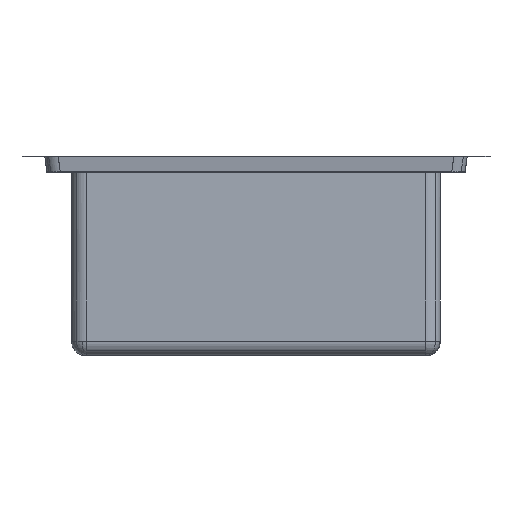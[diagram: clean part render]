
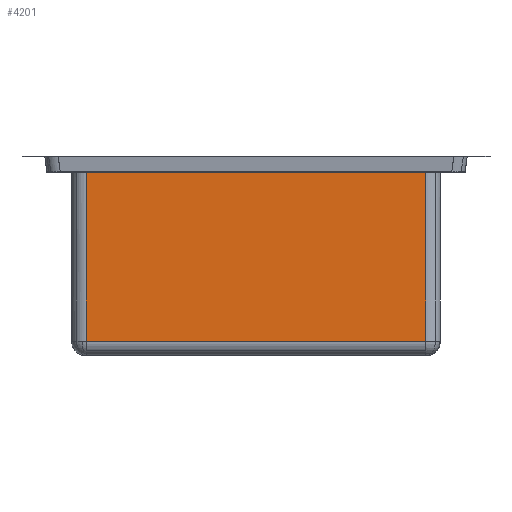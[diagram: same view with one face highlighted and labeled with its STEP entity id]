
A CAD part, left-side view. The second image highlights one B-rep face of the part: STEP entity #4201.
In plain terms, the highlighted planar face has unit normal (-1, 0, 0).
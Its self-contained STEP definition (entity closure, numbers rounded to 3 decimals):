
#3736=CARTESIAN_POINT('Line Origine',(778.326,0.,32.3)) ;
#3740=CARTESIAN_POINT('Vertex',(778.326,-185.,32.3)) ;
#3742=CARTESIAN_POINT('Vertex',(778.326,185.,32.3)) ;
#4109=CARTESIAN_POINT('Vertex',(778.326,-185.,-151.7)) ;
#4117=CARTESIAN_POINT('Line Origine',(778.326,-185.,-67.7)) ;
#4178=CARTESIAN_POINT('Axis2P3D Location',(778.326,185.,32.3)) ;
#4183=CARTESIAN_POINT('Line Origine',(778.326,0.,-151.7)) ;
#4187=CARTESIAN_POINT('Vertex',(778.326,185.,-151.7)) ;
#4190=CARTESIAN_POINT('Line Origine',(778.326,185.,-59.7)) ;
#3737=DIRECTION('Vector Direction',(0.,-1.,0.)) ;
#4118=DIRECTION('Vector Direction',(0.,0.,-1.)) ;
#4179=DIRECTION('Axis2P3D Direction',(1.,0.,0.)) ;
#4180=DIRECTION('Axis2P3D XDirection',(0.,-1.,0.)) ;
#4184=DIRECTION('Vector Direction',(0.,-1.,0.)) ;
#4191=DIRECTION('Vector Direction',(0.,0.,-1.)) ;
#4181=AXIS2_PLACEMENT_3D('Plane Axis2P3D',#4178,#4179,#4180) ;
#4196=ORIENTED_EDGE('',*,*,#4189,.F.) ;
#4197=ORIENTED_EDGE('',*,*,#4121,.F.) ;
#4198=ORIENTED_EDGE('',*,*,#3744,.T.) ;
#4199=ORIENTED_EDGE('',*,*,#4194,.T.) ;
#3738=VECTOR('Line Direction',#3737,1.) ;
#4119=VECTOR('Line Direction',#4118,1.) ;
#4185=VECTOR('Line Direction',#4184,1.) ;
#4192=VECTOR('Line Direction',#4191,1.) ;
#4201=ADVANCED_FACE('Vasca-CTP.2',(#4200),#4182,.F.) ;
#3744=EDGE_CURVE('',#3741,#3743,#3739,.F.) ;
#4121=EDGE_CURVE('',#3741,#4110,#4120,.T.) ;
#4189=EDGE_CURVE('',#4110,#4188,#4186,.F.) ;
#4194=EDGE_CURVE('',#3743,#4188,#4193,.T.) ;
#4195=EDGE_LOOP('',(#4196,#4197,#4198,#4199)) ;
#4200=FACE_OUTER_BOUND('',#4195,.T.) ;
#3739=LINE('Line',#3736,#3738) ;
#4120=LINE('Line',#4117,#4119) ;
#4186=LINE('Line',#4183,#4185) ;
#4193=LINE('Line',#4190,#4192) ;
#4182=PLANE('',#4181) ;
#3741=VERTEX_POINT('',#3740) ;
#3743=VERTEX_POINT('',#3742) ;
#4110=VERTEX_POINT('',#4109) ;
#4188=VERTEX_POINT('',#4187) ;
